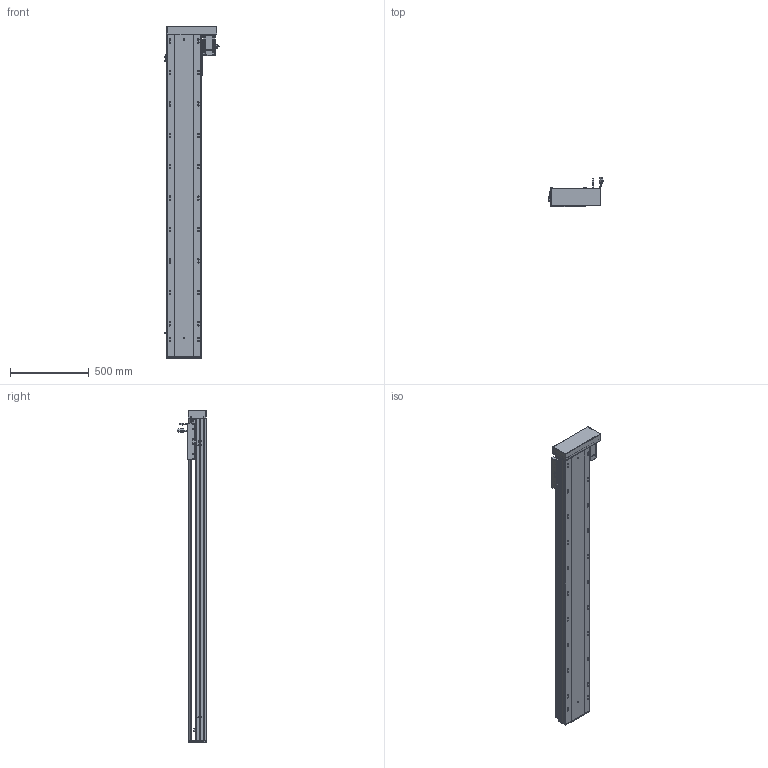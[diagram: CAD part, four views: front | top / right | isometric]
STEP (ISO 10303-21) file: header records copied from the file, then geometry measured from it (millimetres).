
FILE_DESCRIPTION (( 'STEP AP203' ), '1' );
FILE_NAME ('RY220-L2525-800-RK-邧嶺.SLDASM_1700.step', '2022-08-06T08:53:32', ( '' ), ( '' ), 'SwSTEP 2.0', 'SolidWorks 2016', '' );
FILE_SCHEMA (( 'CONFIG_CONTROL_DESIGN' ));
Length unit declared in the file: millimetre
Products named in the file (12): RY220酘衵殏萇儂欶; RY220左右折电机安装板; RY220半封闭25-32螺母铝滑块; RY220蛌殏菁釱-800-邧嶺_1700; RY220綴裔啣; 滅袉蝶18-15; 滅袉蝶18-10; 覜茼ん672; 怢湛750W_ECMA-CX0807ES; RY220-L2525-800-RK-邧嶺.SLDASM_1700; RY220-俋离672覜茼んえ; RY220-800-蛌殏奻裔啣_1700
Assembly tree (15 placements, depth 2):
  RY220-L2525-800-RK-邧嶺.SLDASM_1700
    RY220蛌殏菁釱-800-邧嶺_1700
    RY220-800-蛌殏奻裔啣_1700
    怢湛750W_ECMA-CX0807ES
    滅袉蝶18-10  x2
    RY220-俋离672覜茼んえ
    覜茼ん672  x3
    RY220綴裔啣
    RY220半封闭25-32螺母铝滑块
    滅袉蝶18-15  x2
    RY220左右折电机安装板
    RY220酘衵殏萇儂欶
Bounding box: 347.44 x 187.27 x 2114 mm (x, y, z)
Volume: 16265776.6 mm3; surface area: 4918102.4 mm2
Topology: 16 solids, 16 shells, 2319 faces, 6408 edges, 4027 vertices
Faces by surface type: cylinder 1075, plane 904, cone 270, bspline 44, sphere 16, torus 10
Entity records: 76675 total; most frequent: CARTESIAN_POINT 22083, ORIENTED_EDGE 11304, DIRECTION 10744, EDGE_CURVE 5652, AXIS2_PLACEMENT_3D 3813, VERTEX_POINT 3683, VECTOR 3118, LINE 3118
